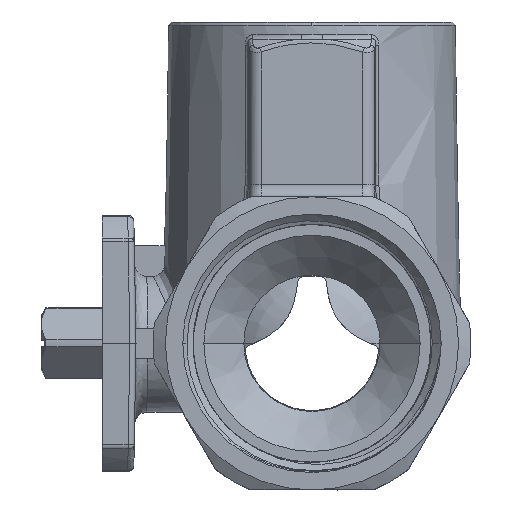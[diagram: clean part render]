
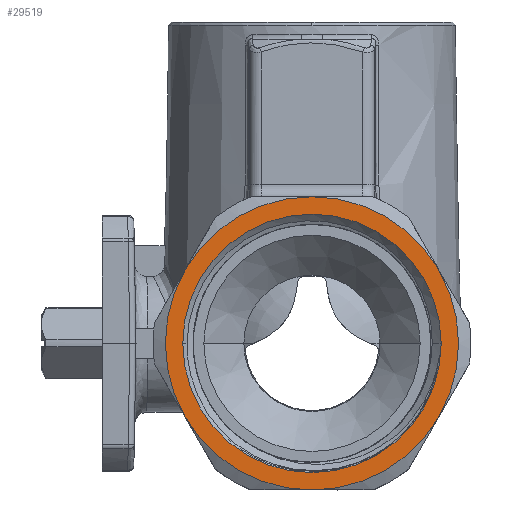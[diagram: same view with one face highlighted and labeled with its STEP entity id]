
A CAD part, left-side view. The second image highlights one B-rep face of the part: STEP entity #29519.
In plain terms, the highlighted planar face has unit normal (-1, 0, 0).
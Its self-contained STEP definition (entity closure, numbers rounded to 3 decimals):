
#1025=CARTESIAN_POINT('',(-49.6,0.,0.));
#1026=DIRECTION('',(-1.,0.,0.));
#1027=DIRECTION('',(0.,0.866,0.5));
#1028=AXIS2_PLACEMENT_3D('',#1025,#1026,#1027);
#1049=CARTESIAN_POINT('',(-49.6,0.,0.));
#1050=DIRECTION('',(1.,0.,0.));
#1051=DIRECTION('',(0.,1.,0.));
#1052=AXIS2_PLACEMENT_3D('',#1049,#1050,#1051);
#1054=CARTESIAN_POINT('',(-49.6,0.,0.));
#1055=DIRECTION('',(-1.,0.,0.));
#1056=DIRECTION('',(0.,1.,0.));
#1057=AXIS2_PLACEMENT_3D('',#1054,#1055,#1056);
#1078=CARTESIAN_POINT('',(-49.6,0.,0.));
#1079=DIRECTION('',(1.,0.,0.));
#1080=DIRECTION('',(0.,0.866,0.5));
#1081=AXIS2_PLACEMENT_3D('',#1078,#1079,#1080);
#1091=CARTESIAN_POINT('',(-49.6,20.785,12.));
#1341=CARTESIAN_POINT('',(-49.6,0.,
24.));
#16003=CARTESIAN_POINT('',(-49.6,0.,
-24.));
#17094=CARTESIAN_POINT('',(-49.6,0.,0.));
#17095=DIRECTION('',(-1.,0.,0.));
#17096=DIRECTION('',(0.,0.,-1.));
#17097=AXIS2_PLACEMENT_3D('',#17094,#17095,#17096);
#17107=CARTESIAN_POINT('',(-49.6,-20.785,
-12.));
#17131=CARTESIAN_POINT('',(-49.6,0.,0.));
#17132=DIRECTION('',(-1.,0.,0.));
#17133=DIRECTION('',(0.,-0.866,-0.5));
#17134=AXIS2_PLACEMENT_3D('',#17131,#17132,#17133);
#17159=CARTESIAN_POINT('',(-49.6,-20.785,
12.));
#17190=CARTESIAN_POINT('',(-49.6,0.,0.));
#17191=DIRECTION('',(1.,0.,0.));
#17192=DIRECTION('',(0.,0.,1.));
#17193=AXIS2_PLACEMENT_3D('',#17190,#17191,#17192);
#18668=CARTESIAN_POINT('',(-49.6,0.,0.));
#18669=DIRECTION('',(-1.,0.,0.));
#18670=DIRECTION('',(0.,0.866,-0.5));
#18671=AXIS2_PLACEMENT_3D('',#18668,#18669,#18670);
#18689=CARTESIAN_POINT('',(-49.6,20.785,
-12.));
#24844=CARTESIAN_POINT('',(-49.6,21.15,0.));
#24845=CARTESIAN_POINT('',(-49.6,-21.15,0.));
#24846=VERTEX_POINT('',#24844);
#24847=VERTEX_POINT('',#24845);
#24849=VERTEX_POINT('',#1091);
#24856=VERTEX_POINT('',#1341);
#24863=VERTEX_POINT('',#17159);
#24866=VERTEX_POINT('',#17107);
#24873=VERTEX_POINT('',#16003);
#24880=VERTEX_POINT('',#18689);
#29495=CARTESIAN_POINT('',(-49.6,0.,0.));
#29496=DIRECTION('',(1.,0.,0.));
#29497=DIRECTION('',(0.,-1.,0.));
#29498=AXIS2_PLACEMENT_3D('',#29495,#29496,#29497);
#29499=PLANE('',#29498);
#29500=ORIENTED_EDGE('',*,*,#29481,.F.);
#29502=ORIENTED_EDGE('',*,*,#29501,.T.);
#29504=ORIENTED_EDGE('',*,*,#29503,.T.);
#29506=ORIENTED_EDGE('',*,*,#29505,.F.);
#29508=ORIENTED_EDGE('',*,*,#29507,.F.);
#29510=ORIENTED_EDGE('',*,*,#29509,.F.);
#29511=EDGE_LOOP('',(#29500,#29502,#29504,#29506,#29508,#29510));
#29512=FACE_OUTER_BOUND('',#29511,.F.);
#29514=ORIENTED_EDGE('',*,*,#29513,.F.);
#29516=ORIENTED_EDGE('',*,*,#29515,.T.);
#29517=EDGE_LOOP('',(#29514,#29516));
#29518=FACE_BOUND('',#29517,.F.);
#1029=CIRCLE('',#1028,24.);
#1053=CIRCLE('',#1052,21.15);
#1058=CIRCLE('',#1057,21.15);
#1082=CIRCLE('',#1081,24.);
#17098=CIRCLE('',#17097,24.);
#17135=CIRCLE('',#17134,24.);
#17194=CIRCLE('',#17193,24.);
#18672=CIRCLE('',#18671,24.);
#29481=EDGE_CURVE('',#24849,#24880,#1029,.T.);
#29501=EDGE_CURVE('',#24849,#24856,#1082,.T.);
#29503=EDGE_CURVE('',#24856,#24863,#17194,.T.);
#29505=EDGE_CURVE('',#24866,#24863,#17135,.T.);
#29507=EDGE_CURVE('',#24873,#24866,#17098,.T.);
#29509=EDGE_CURVE('',#24880,#24873,#18672,.T.);
#29513=EDGE_CURVE('',#24846,#24847,#1053,.T.);
#29515=EDGE_CURVE('',#24846,#24847,#1058,.T.);
#29519=ADVANCED_FACE('',(#29512,#29518),#29499,.F.);
